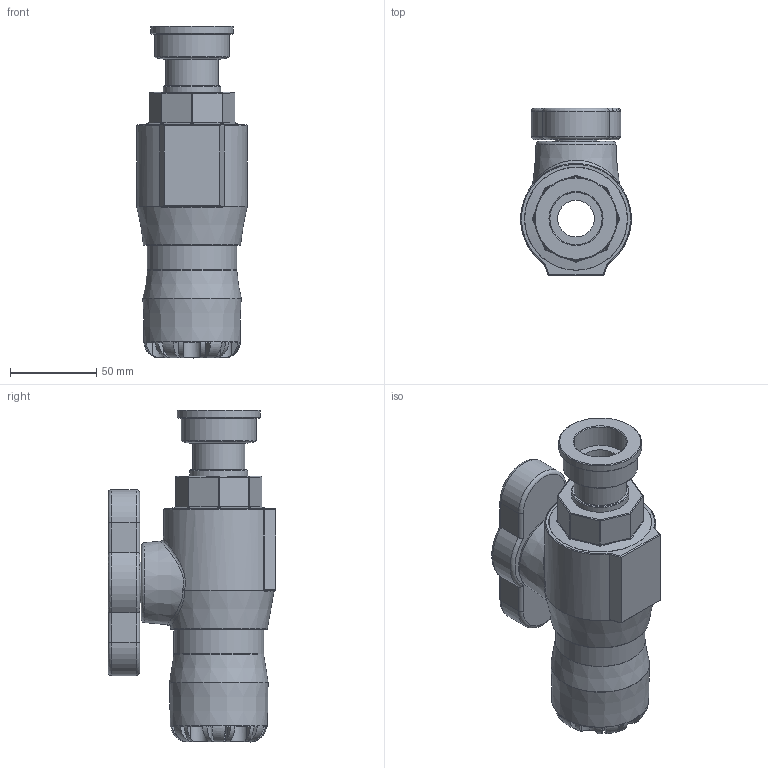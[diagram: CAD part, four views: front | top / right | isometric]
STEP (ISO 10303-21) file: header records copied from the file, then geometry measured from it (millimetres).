
FILE_DESCRIPTION(/* description */ ('PA Ball Valve Series 1 32mm x Free Nut Female 1'''''),/* implementation_level */ '2;1');
FILE_NAME(/* name */ 'C:\Dropbox\KIMPROJECTS-Inventor 2019\99-16-3568-Processing\S1\0371016\0371016S00032010_0371016SF0032010.stp',/* time_stamp */ '2022-04-18T19:44:28+03:00',/* author */ ('Lenora'),/* organization */ (''),/* preprocessor_version */ 'ST-DEVELOPER v17.2',/* originating_system */ 'Autodesk Inventor 2019',/* authorisation */ '');
FILE_SCHEMA (('AUTOMOTIVE_DESIGN { 1 0 10303 214 3 1 1 }'));
Length unit declared in the file: millimetre
Products named in the file (1): 0371016S00032010_0371016SF0032010
Bounding box: 63.99 x 97 x 192 mm (x, y, z)
Volume: 414773.3 mm3; surface area: 73350.2 mm2
Topology: 1 solids, 1 shells, 225 faces, 568 edges, 353 vertices
Faces by surface type: plane 83, cylinder 76, bspline 26, torus 21, cone 11, sphere 8
Full cylindrical faces by diameter (mm): 21.204 x1, 24 x1, 30.291 x2, 32 x1, 33.32 x1, 43.2 x1, 48 x1, 51.84 x1
Entity records: 7977 total; most frequent: CARTESIAN_POINT 2673, DIRECTION 1116, ORIENTED_EDGE 1114, EDGE_CURVE 557, AXIS2_PLACEMENT_3D 469, VERTEX_POINT 344, CIRCLE 265, EDGE_LOOP 237
